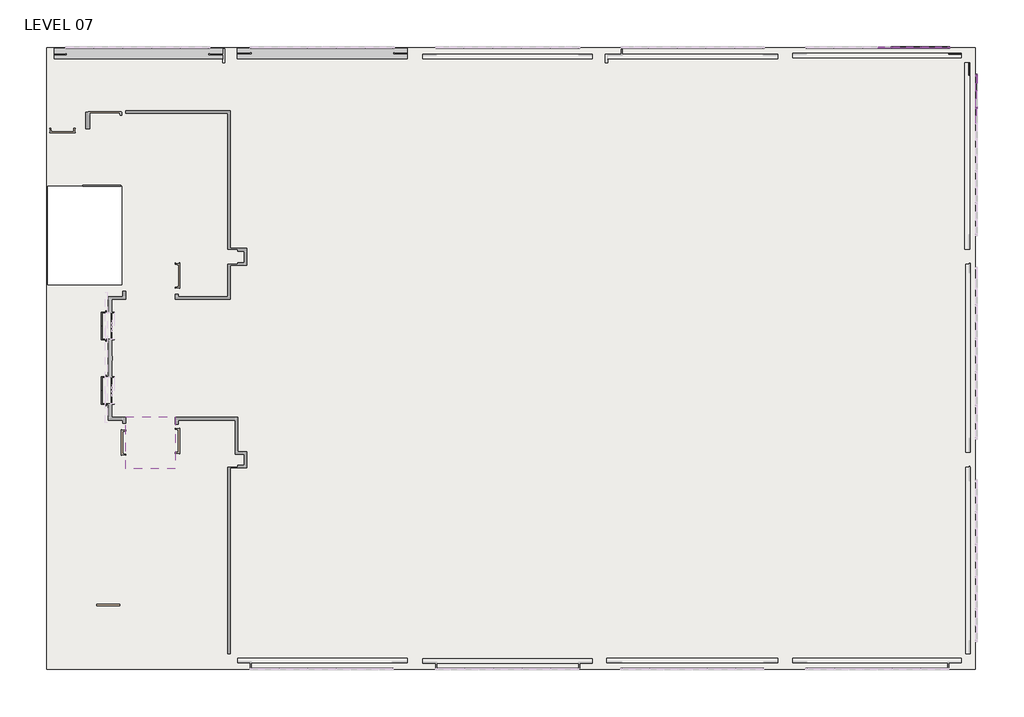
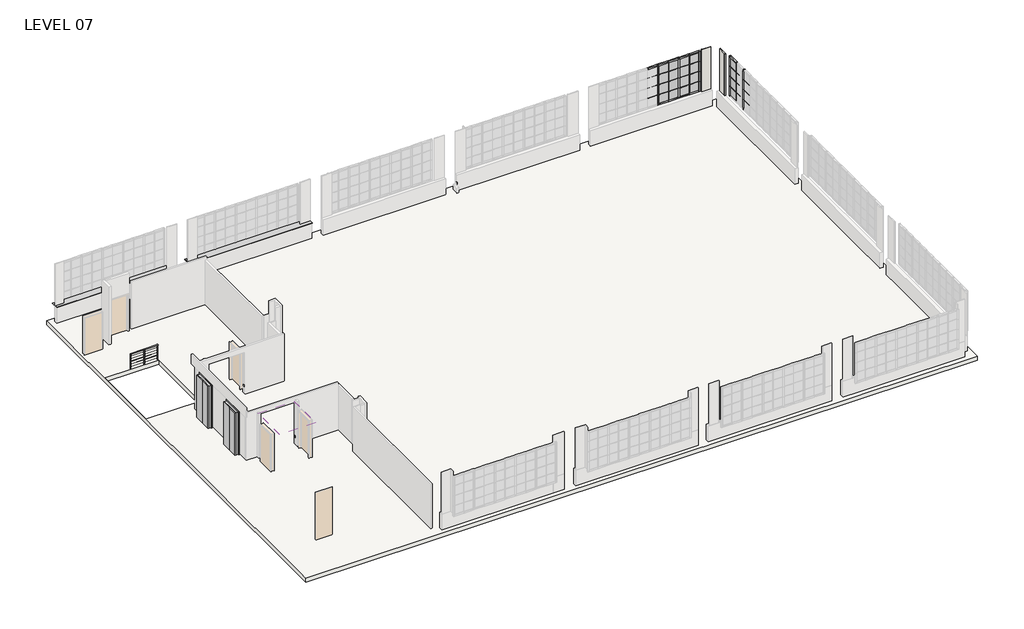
# One storey, part 15 of 15: 66 members, 20 plates, 6 proxies, 4 walls, 2 furniture elements, 1 covering, 1 railing, 1 slab.
"""IFC4 building model written with IfcOpenShell, lengths in millimetres."""

from ifc_helpers import new_model, si_unit, point, frame, frame_2d, origin, place, context, project, spatial, polyline, circle_curve, trimmed, segment, composite_curve, outline, extrude, faceted_brep, transform, mapped, element, save
from components import proxy_6c0da019, receptacle_wall_mounted_duplex_77620e8f, receptacle_wall_mounted_duplex_715ea828, receptacle_wall_mounted_duplex_e1195973, furniture_2e8edbcf, furniture_16195ded, member_78bb2ef1, member_d9fe2114, member_fd592df6, member_dcd82389, member_f013a865, member_1e778135, member_378e0c06, member_17eb62f4, member_ba51e770, member_6e5aab5d, member_bacafba3, member_a6d649dc, member_c8ab9ee9, system_panel_glazed_33ac10ee, system_panel_glazed_f7690e00, system_panel_glazed_84a10c8e, system_panel_glazed_44697018, system_panel_glazed_99b9b709, system_panel_glazed_bf1454fd

model = new_model("IFC4")

# Units and contexts
model_context = context("Model", 3, world=origin())
ifc_project = project(units=[si_unit("LENGTHUNIT", "METRE", prefix="MILLI")], contexts=[model_context])

# Site, building, storey
site = spatial("IfcSite", under=ifc_project)
building = spatial("IfcBuilding", under=site)
storey = spatial("IfcBuildingStorey", under=building, Name="LEVEL 07", Elevation=20802.6)

# Proxies
placement = place(None, origin())
proxy_shape = proxy_6c0da019(model_context)
element("IfcBuildingElementProxy", 1, Name="Elevator - Double Door - HW : 42\" x 96\"", ObjectType="Elevator - Double Door - HW : 42\" x 96\"", at=placement, inside=storey, context=model_context, shape_type="MappedRepresentation", body=[
    mapped(proxy_shape, transform((-35153.2082298, -14149.27762, 20802.6), x_axis=(0.0, -1.0, 0.0), y_axis=(1.0, 0.0, 0.0), z_axis=(0.0, 0.0, 1.0))),
])
element("IfcBuildingElementProxy", 2, Name="Elevator - Double Door - HW : 42\" x 96\"", ObjectType="Elevator - Double Door - HW : 42\" x 96\"", at=placement, inside=storey, context=model_context, shape_type="MappedRepresentation", body=[
    mapped(proxy_shape, transform((-35153.2082298, -11579.2714012, 20802.6), x_axis=(0.0, -1.0, 0.0), y_axis=(1.0, 0.0, 0.0), z_axis=(0.0, 0.0, 1.0))),
])
receptacle_wall_mounted_duplex_shape = receptacle_wall_mounted_duplex_77620e8f(model_context)
element("IfcBuildingElementProxy", 3, Name="Receptacle_Wall Mounted - Duplex : Convenience", ObjectType="Receptacle_Wall Mounted - Duplex : Convenience", at=placement, inside=storey, context=model_context, shape_type="MappedRepresentation", body=[
    mapped(receptacle_wall_mounted_duplex_shape, transform((-32256.0222362, -10317.9282337, 20802.6), x_axis=(0.0, -1.0, 0.0), y_axis=(1.0, 0.0, 0.0), z_axis=(0.0, 0.0, 1.0))),
])
receptacle_wall_mounted_duplex_2_shape = receptacle_wall_mounted_duplex_715ea828(model_context)
element("IfcBuildingElementProxy", 4, Name="Receptacle_Wall Mounted - Duplex : Convenience", ObjectType="Receptacle_Wall Mounted - Duplex : Convenience", at=placement, inside=storey, context=model_context, shape_type="MappedRepresentation", body=[
    mapped(receptacle_wall_mounted_duplex_2_shape, transform((-15155.4599596, -829.8940665, 20802.6), x_axis=(0.0, -1.0, 0.0), y_axis=(1.0, 0.0, 0.0), z_axis=(0.0, 0.0, 1.0))),
])
receptacle_wall_mounted_duplex_3_shape = receptacle_wall_mounted_duplex_e1195973(model_context)
element("IfcBuildingElementProxy", 5, Name="Receptacle_Wall Mounted - Duplex : Convenience", ObjectType="Receptacle_Wall Mounted - Duplex : Convenience", at=placement, inside=storey, context=model_context, shape_type="MappedRepresentation", body=[
    mapped(receptacle_wall_mounted_duplex_3_shape, transform((-30389.1099596, -829.8940665, 20802.6), x_axis=(0.0, -1.0, 0.0), y_axis=(1.0, 0.0, 0.0), z_axis=(0.0, 0.0, 1.0))),
])
element("IfcBuildingElementProxy", 6, Name="Receptacle_Wall Mounted - Duplex : Convenience", ObjectType="Receptacle_Wall Mounted - Duplex : Convenience", at=placement, inside=storey, context=model_context, shape_type="MappedRepresentation", body=[
    mapped(receptacle_wall_mounted_duplex_shape, transform((-32256.0222362, -15216.9559789, 20802.6), x_axis=(0.0, -1.0, 0.0), y_axis=(1.0, 0.0, 0.0), z_axis=(0.0, 0.0, 1.0))),
])

# Covering
element("IfcCovering", 7, ObjectType="1/2\" GWB  on 6\" Metal Stud", at=placement, inside=storey, context=model_context, shape_type="SweptSolid", body=[
    extrude(outline(polyline([(-34295.9623534, -17167.9919741), (-34295.9623534, -15095.228029), (-32309.9972362, -15095.228029), (-32309.9972362, -17167.9919741), (-34295.9623534, -17167.9919741)])), frame((0.0, 0.0, 23241.0), z_axis=(0.0, 0.0, 1.0), x_axis=(1.0, 0.0, 0.0)), (0.0, 0.0, 1.0), 152.4),
    extrude(outline(polyline([(-34295.9582282, -8360.5418823), (-32309.9972362, -8360.5418823), (-32309.9972362, -10417.9422401), (-34295.9582282, -10417.9422401), (-34295.9582282, -8360.5418823)])), frame((0.0, 0.0, 23241.0), z_axis=(0.0, 0.0, 1.0), x_axis=(1.0, 0.0, 0.0)), (0.0, 0.0, 1.0), 152.4),
])

# Furniture
furniture_shape = furniture_2e8edbcf(model_context)
element("IfcFurniture", 8, ObjectType="Countertop - Straight : 16\" DEPTH - WINDOW SILL", at=placement, inside=storey, context=model_context, shape_type="MappedRepresentation", body=[
    mapped(furniture_shape, transform((-35935.5226645, -431.8, 20872.45), x_axis=(1.0, 0.0, 0.0), y_axis=(0.0, 1.0, 0.0), z_axis=(0.0, 0.0, 1.0))),
])
furniture_2_shape = furniture_16195ded(model_context)
element("IfcFurniture", 9, ObjectType="Countertop - Straight : 16\" DEPTH - WINDOW SILL", at=placement, inside=storey, context=model_context, shape_type="MappedRepresentation", body=[
    mapped(furniture_2_shape, transform((-28648.7463306, -431.8, 20872.45), x_axis=(1.0, 0.0, 0.0), y_axis=(0.0, 1.0, 0.0), z_axis=(0.0, 0.0, 1.0))),
])

# Members
member_shape = member_78bb2ef1(model_context)
element("IfcMember", 10, ObjectType="Rectangular Mullion : 1\" x 1\" - Butt Joint", at=placement, inside=storey, context=model_context, shape_type="MappedRepresentation", body=[
    mapped(member_shape, transform((-445.6849596, -2133.1748817, 23342.6), x_axis=(0.0, 1.0, 0.0), y_axis=(1.0, 0.0, 0.0), z_axis=(0.0, 0.0, -1.0))),
])
element("IfcMember", 11, ObjectType="Rectangular Mullion : 1\" x 1\" - Butt Joint", at=placement, inside=storey, context=model_context, shape_type="MappedRepresentation", body=[
    mapped(member_shape, transform((-445.6849596, -2133.1748817, 22174.2), x_axis=(0.0, 1.0, 0.0), y_axis=(1.0, 0.0, 0.0), z_axis=(0.0, 0.0, -1.0))),
])
element("IfcMember", 12, ObjectType="Rectangular Mullion : 1\" x 1\" - Butt Joint", at=placement, inside=storey, context=model_context, shape_type="MappedRepresentation", body=[
    mapped(member_shape, transform((-445.6849596, -2133.1748817, 22758.4), x_axis=(0.0, 1.0, 0.0), y_axis=(1.0, 0.0, 0.0), z_axis=(0.0, 0.0, -1.0))),
])
element("IfcMember", 13, ObjectType="Rectangular Mullion : 1\" x 1\" - Butt Joint", at=placement, inside=storey, context=model_context, shape_type="MappedRepresentation", body=[
    mapped(member_shape, transform((-445.6849596, -2133.1748817, 21590.0), x_axis=(0.0, 1.0, 0.0), y_axis=(1.0, 0.0, 0.0), z_axis=(0.0, 0.0, -1.0))),
])
member_2_shape = member_d9fe2114(model_context)
element("IfcMember", 14, ObjectType="Rectangular Mullion : 1\" x 1\" - Butt Joint", at=placement, inside=storey, context=model_context, shape_type="MappedRepresentation", body=[
    mapped(member_2_shape, transform((-3828.2571519, -412.75, 23342.6), x_axis=(0.0, 0.0, 1.0), y_axis=(0.0, -1.0, 0.0), z_axis=(1.0, 0.0, 0.0))),
])
element("IfcMember", 15, ObjectType="Rectangular Mullion : 1\" x 1\" - Butt Joint", at=placement, inside=storey, context=model_context, shape_type="MappedRepresentation", body=[
    mapped(member_2_shape, transform((-2680.1771519, -412.75, 23342.6), x_axis=(0.0, 0.0, 1.0), y_axis=(0.0, -1.0, 0.0), z_axis=(1.0, 0.0, 0.0))),
])
element("IfcMember", 16, ObjectType="Rectangular Mullion : 1\" x 1\" - Butt Joint", at=placement, inside=storey, context=model_context, shape_type="MappedRepresentation", body=[
    mapped(member_2_shape, transform((-3228.8171519, -412.75, 23342.6), x_axis=(0.0, 0.0, 1.0), y_axis=(0.0, -1.0, 0.0), z_axis=(1.0, 0.0, 0.0))),
])
element("IfcMember", 17, ObjectType="Rectangular Mullion : 1\" x 1\" - Butt Joint", at=placement, inside=storey, context=model_context, shape_type="MappedRepresentation", body=[
    mapped(member_2_shape, transform((-2080.7371519, -412.75, 23342.6), x_axis=(0.0, 0.0, 1.0), y_axis=(0.0, -1.0, 0.0), z_axis=(1.0, 0.0, 0.0))),
])
element("IfcMember", 18, ObjectType="Rectangular Mullion : 1\" x 1\" - Butt Joint", at=placement, inside=storey, context=model_context, shape_type="MappedRepresentation", body=[
    mapped(member_2_shape, transform((-3828.2571519, -412.75, 22758.4), x_axis=(0.0, 0.0, 1.0), y_axis=(0.0, -1.0, 0.0), z_axis=(1.0, 0.0, 0.0))),
])
element("IfcMember", 19, ObjectType="Rectangular Mullion : 1\" x 1\" - Butt Joint", at=placement, inside=storey, context=model_context, shape_type="MappedRepresentation", body=[
    mapped(member_2_shape, transform((-2680.1771519, -412.75, 22758.4), x_axis=(0.0, 0.0, 1.0), y_axis=(0.0, -1.0, 0.0), z_axis=(1.0, 0.0, 0.0))),
])
element("IfcMember", 20, ObjectType="Rectangular Mullion : 1\" x 1\" - Butt Joint", at=placement, inside=storey, context=model_context, shape_type="MappedRepresentation", body=[
    mapped(member_2_shape, transform((-3228.8171519, -412.75, 22758.4), x_axis=(0.0, 0.0, 1.0), y_axis=(0.0, -1.0, 0.0), z_axis=(1.0, 0.0, 0.0))),
])
element("IfcMember", 21, ObjectType="Rectangular Mullion : 1\" x 1\" - Butt Joint", at=placement, inside=storey, context=model_context, shape_type="MappedRepresentation", body=[
    mapped(member_2_shape, transform((-2080.7371519, -412.75, 22758.4), x_axis=(0.0, 0.0, 1.0), y_axis=(0.0, -1.0, 0.0), z_axis=(1.0, 0.0, 0.0))),
])
element("IfcMember", 22, ObjectType="Rectangular Mullion : 1\" x 1\" - Butt Joint", at=placement, inside=storey, context=model_context, shape_type="MappedRepresentation", body=[
    mapped(member_2_shape, transform((-3828.2571519, -412.75, 22174.2), x_axis=(0.0, 0.0, 1.0), y_axis=(0.0, -1.0, 0.0), z_axis=(1.0, 0.0, 0.0))),
])
element("IfcMember", 23, ObjectType="Rectangular Mullion : 1\" x 1\" - Butt Joint", at=placement, inside=storey, context=model_context, shape_type="MappedRepresentation", body=[
    mapped(member_2_shape, transform((-2680.1771519, -412.75, 22174.2), x_axis=(0.0, 0.0, 1.0), y_axis=(0.0, -1.0, 0.0), z_axis=(1.0, 0.0, 0.0))),
])
element("IfcMember", 24, ObjectType="Rectangular Mullion : 1\" x 1\" - Butt Joint", at=placement, inside=storey, context=model_context, shape_type="MappedRepresentation", body=[
    mapped(member_2_shape, transform((-3228.8171519, -412.75, 22174.2), x_axis=(0.0, 0.0, 1.0), y_axis=(0.0, -1.0, 0.0), z_axis=(1.0, 0.0, 0.0))),
])
element("IfcMember", 25, ObjectType="Rectangular Mullion : 1\" x 1\" - Butt Joint", at=placement, inside=storey, context=model_context, shape_type="MappedRepresentation", body=[
    mapped(member_2_shape, transform((-2080.7371519, -412.75, 22174.2), x_axis=(0.0, 0.0, 1.0), y_axis=(0.0, -1.0, 0.0), z_axis=(1.0, 0.0, 0.0))),
])
member_3_shape = member_fd592df6(model_context)
element("IfcMember", 26, ObjectType="Rectangular Mullion : 1\" x 1\" - Butt Joint", at=placement, inside=storey, context=model_context, shape_type="MappedRepresentation", body=[
    mapped(member_3_shape, transform((-1570.1971519, -412.75, 23342.6), x_axis=(0.0, 0.0, 1.0), y_axis=(0.0, -1.0, 0.0), z_axis=(1.0, 0.0, 0.0))),
])
element("IfcMember", 27, ObjectType="Rectangular Mullion : 1\" x 1\" - Butt Joint", at=placement, inside=storey, context=model_context, shape_type="MappedRepresentation", body=[
    mapped(member_3_shape, transform((-1570.1971519, -412.75, 22758.4), x_axis=(0.0, 0.0, 1.0), y_axis=(0.0, -1.0, 0.0), z_axis=(1.0, 0.0, 0.0))),
])
element("IfcMember", 28, ObjectType="Rectangular Mullion : 1\" x 1\" - Butt Joint", at=placement, inside=storey, context=model_context, shape_type="MappedRepresentation", body=[
    mapped(member_3_shape, transform((-1570.1971519, -412.75, 22174.2), x_axis=(0.0, 0.0, 1.0), y_axis=(0.0, -1.0, 0.0), z_axis=(1.0, 0.0, 0.0))),
])
element("IfcMember", 29, ObjectType="Rectangular Mullion : 1\" x 1\" - Butt Joint", at=placement, inside=storey, context=model_context, shape_type="MappedRepresentation", body=[
    mapped(member_shape, transform((-2068.0371519, -412.75, 23342.6), x_axis=(1.0, 0.0, 0.0), y_axis=(0.0, -1.0, 0.0), z_axis=(0.0, 0.0, -1.0))),
])
element("IfcMember", 30, ObjectType="Rectangular Mullion : 1\" x 1\" - Butt Joint", at=placement, inside=storey, context=model_context, shape_type="MappedRepresentation", body=[
    mapped(member_shape, transform((-3216.1171519, -412.75, 23342.6), x_axis=(1.0, 0.0, 0.0), y_axis=(0.0, -1.0, 0.0), z_axis=(0.0, 0.0, -1.0))),
])
element("IfcMember", 31, ObjectType="Rectangular Mullion : 1\" x 1\" - Butt Joint", at=placement, inside=storey, context=model_context, shape_type="MappedRepresentation", body=[
    mapped(member_shape, transform((-2068.0371519, -412.75, 22174.2), x_axis=(1.0, 0.0, 0.0), y_axis=(0.0, -1.0, 0.0), z_axis=(0.0, 0.0, -1.0))),
])
element("IfcMember", 32, ObjectType="Rectangular Mullion : 1\" x 1\" - Butt Joint", at=placement, inside=storey, context=model_context, shape_type="MappedRepresentation", body=[
    mapped(member_shape, transform((-2068.0371519, -412.75, 22758.4), x_axis=(1.0, 0.0, 0.0), y_axis=(0.0, -1.0, 0.0), z_axis=(0.0, 0.0, -1.0))),
])
element("IfcMember", 33, ObjectType="Rectangular Mullion : 1\" x 1\" - Butt Joint", at=placement, inside=storey, context=model_context, shape_type="MappedRepresentation", body=[
    mapped(member_shape, transform((-3216.1171519, -412.75, 22174.2), x_axis=(1.0, 0.0, 0.0), y_axis=(0.0, -1.0, 0.0), z_axis=(0.0, 0.0, -1.0))),
])
element("IfcMember", 34, ObjectType="Rectangular Mullion : 1\" x 1\" - Butt Joint", at=placement, inside=storey, context=model_context, shape_type="MappedRepresentation", body=[
    mapped(member_shape, transform((-3216.1171519, -412.75, 22758.4), x_axis=(1.0, 0.0, 0.0), y_axis=(0.0, -1.0, 0.0), z_axis=(0.0, 0.0, -1.0))),
])
element("IfcMember", 35, ObjectType="Rectangular Mullion : 1\" x 1\" - Butt Joint", at=placement, inside=storey, context=model_context, shape_type="MappedRepresentation", body=[
    mapped(member_shape, transform((-2068.0371519, -412.75, 21590.0), x_axis=(1.0, 0.0, 0.0), y_axis=(0.0, -1.0, 0.0), z_axis=(0.0, 0.0, -1.0))),
])
element("IfcMember", 36, ObjectType="Rectangular Mullion : 1\" x 1\" - Butt Joint", at=placement, inside=storey, context=model_context, shape_type="MappedRepresentation", body=[
    mapped(member_shape, transform((-3216.1171519, -412.75, 21590.0), x_axis=(1.0, 0.0, 0.0), y_axis=(0.0, -1.0, 0.0), z_axis=(0.0, 0.0, -1.0))),
])
member_4_shape = member_dcd82389(model_context)
element("IfcMember", 37, ObjectType="Rectangular Mullion : 1\" x 1\" - Butt Joint", at=placement, inside=storey, context=model_context, shape_type="MappedRepresentation", body=[
    mapped(member_4_shape, transform((-445.6849596, -2828.0747634, 23342.6), x_axis=(0.0, 0.0, 1.0), y_axis=(1.0, 0.0, 0.0), z_axis=(0.0, 1.0, 0.0))),
])
element("IfcMember", 38, ObjectType="Rectangular Mullion : 1\" x 1\" - Butt Joint", at=placement, inside=storey, context=model_context, shape_type="MappedRepresentation", body=[
    mapped(member_4_shape, transform((-445.6849596, -2828.0747634, 22758.4), x_axis=(0.0, 0.0, 1.0), y_axis=(1.0, 0.0, 0.0), z_axis=(0.0, 1.0, 0.0))),
])
element("IfcMember", 39, ObjectType="Rectangular Mullion : 1\" x 1\" - Butt Joint", at=placement, inside=storey, context=model_context, shape_type="MappedRepresentation", body=[
    mapped(member_4_shape, transform((-445.6849596, -2828.0747634, 22174.2), x_axis=(0.0, 0.0, 1.0), y_axis=(1.0, 0.0, 0.0), z_axis=(0.0, 1.0, 0.0))),
])
member_5_shape = member_f013a865(model_context)
element("IfcMember", 40, ObjectType="Rectangular Mullion : 1\" x 1\" - Butt Joint", at=placement, inside=storey, context=model_context, shape_type="MappedRepresentation", body=[
    mapped(member_5_shape, transform((-445.6849596, -2145.8748817, 23342.6), x_axis=(0.0, 0.0, 1.0), y_axis=(1.0, 0.0, 0.0), z_axis=(0.0, 1.0, 0.0))),
])
element("IfcMember", 41, ObjectType="Rectangular Mullion : 1\" x 1\" - Butt Joint", at=placement, inside=storey, context=model_context, shape_type="MappedRepresentation", body=[
    mapped(member_5_shape, transform((-445.6849596, -2145.8748817, 22758.4), x_axis=(0.0, 0.0, 1.0), y_axis=(1.0, 0.0, 0.0), z_axis=(0.0, 1.0, 0.0))),
])
element("IfcMember", 42, ObjectType="Rectangular Mullion : 1\" x 1\" - Butt Joint", at=placement, inside=storey, context=model_context, shape_type="MappedRepresentation", body=[
    mapped(member_5_shape, transform((-445.6849596, -2145.8748817, 22174.2), x_axis=(0.0, 0.0, 1.0), y_axis=(1.0, 0.0, 0.0), z_axis=(0.0, 1.0, 0.0))),
])
member_6_shape = member_1e778135(model_context)
element("IfcMember", 43, ObjectType="Rectangular Mullion : 1\" x 1\" - Butt Joint", at=placement, inside=storey, context=model_context, shape_type="MappedRepresentation", body=[
    mapped(member_6_shape, transform((-445.6849596, -1541.9738171, 23342.6), x_axis=(0.0, 0.0, 1.0), y_axis=(1.0, 0.0, 0.0), z_axis=(0.0, 1.0, 0.0))),
])
element("IfcMember", 44, ObjectType="Rectangular Mullion : 1\" x 1\" - Butt Joint", at=placement, inside=storey, context=model_context, shape_type="MappedRepresentation", body=[
    mapped(member_6_shape, transform((-445.6849596, -1541.9738171, 22758.4), x_axis=(0.0, 0.0, 1.0), y_axis=(1.0, 0.0, 0.0), z_axis=(0.0, 1.0, 0.0))),
])
element("IfcMember", 45, ObjectType="Rectangular Mullion : 1\" x 1\" - Butt Joint", at=placement, inside=storey, context=model_context, shape_type="MappedRepresentation", body=[
    mapped(member_6_shape, transform((-445.6849596, -1541.9738171, 22174.2), x_axis=(0.0, 0.0, 1.0), y_axis=(1.0, 0.0, 0.0), z_axis=(0.0, 1.0, 0.0))),
])
member_7_shape = member_378e0c06(model_context)
element("IfcMember", 46, ObjectType="Rectangular Mullion : 3\" x 3\" Window Jamb", at=placement, inside=storey, context=model_context, shape_type="MappedRepresentation", body=[
    mapped(member_7_shape, transform((-445.6849596, -2789.9747634, 23342.6), x_axis=(0.0, 1.0, 0.0), y_axis=(1.0, 0.0, 0.0), z_axis=(0.0, 0.0, -1.0))),
])
member_8_shape = member_17eb62f4(model_context)
element("IfcMember", 47, ObjectType="Rectangular Mullion : 3\" x 3\" Window Jamb", at=placement, inside=storey, context=model_context, shape_type="MappedRepresentation", body=[
    mapped(member_8_shape, transform((-445.6849596, -1465.7738171, 23342.6), x_axis=(0.0, 1.0, 0.0), y_axis=(1.0, 0.0, 0.0), z_axis=(0.0, 0.0, -1.0))),
])
element("IfcMember", 48, ObjectType="Rectangular Mullion : 3\" x 3\" Window Jamb", at=placement, inside=storey, context=model_context, shape_type="MappedRepresentation", body=[
    mapped(member_7_shape, transform((-445.6849596, -2789.9747634, 22174.2), x_axis=(0.0, 1.0, 0.0), y_axis=(1.0, 0.0, 0.0), z_axis=(0.0, 0.0, -1.0))),
])
element("IfcMember", 49, ObjectType="Rectangular Mullion : 3\" x 3\" Window Jamb", at=placement, inside=storey, context=model_context, shape_type="MappedRepresentation", body=[
    mapped(member_7_shape, transform((-445.6849596, -2789.9747634, 22758.4), x_axis=(0.0, 1.0, 0.0), y_axis=(1.0, 0.0, 0.0), z_axis=(0.0, 0.0, -1.0))),
])
element("IfcMember", 50, ObjectType="Rectangular Mullion : 3\" x 3\" Window Jamb", at=placement, inside=storey, context=model_context, shape_type="MappedRepresentation", body=[
    mapped(member_8_shape, transform((-445.6849596, -1465.7738171, 22174.2), x_axis=(0.0, 1.0, 0.0), y_axis=(1.0, 0.0, 0.0), z_axis=(0.0, 0.0, -1.0))),
])
element("IfcMember", 51, ObjectType="Rectangular Mullion : 3\" x 3\" Window Jamb", at=placement, inside=storey, context=model_context, shape_type="MappedRepresentation", body=[
    mapped(member_8_shape, transform((-445.6849596, -1465.7738171, 22758.4), x_axis=(0.0, 1.0, 0.0), y_axis=(1.0, 0.0, 0.0), z_axis=(0.0, 0.0, -1.0))),
])
element("IfcMember", 52, ObjectType="Rectangular Mullion : 3\" x 3\" Window Jamb", at=placement, inside=storey, context=model_context, shape_type="MappedRepresentation", body=[
    mapped(member_7_shape, transform((-445.6849596, -2789.9747634, 21590.0), x_axis=(0.0, 1.0, 0.0), y_axis=(1.0, 0.0, 0.0), z_axis=(0.0, 0.0, -1.0))),
])
element("IfcMember", 53, ObjectType="Rectangular Mullion : 3\" x 3\" Window Jamb", at=placement, inside=storey, context=model_context, shape_type="MappedRepresentation", body=[
    mapped(member_8_shape, transform((-445.6849596, -1465.7738171, 21590.0), x_axis=(0.0, 1.0, 0.0), y_axis=(1.0, 0.0, 0.0), z_axis=(0.0, 0.0, -1.0))),
])
member_9_shape = member_ba51e770(model_context)
element("IfcMember", 54, ObjectType="Rectangular Mullion : 3\" x 3\" Window Jamb", at=placement, inside=storey, context=model_context, shape_type="MappedRepresentation", body=[
    mapped(member_9_shape, transform((-1570.1971519, -412.75, 23926.8), x_axis=(0.0, 0.0, 1.0), y_axis=(0.0, -1.0, 0.0), z_axis=(1.0, 0.0, 0.0))),
])
member_10_shape = member_6e5aab5d(model_context)
element("IfcMember", 55, ObjectType="Rectangular Mullion : 3\" x 3\" Window Jamb", at=placement, inside=storey, context=model_context, shape_type="MappedRepresentation", body=[
    mapped(member_10_shape, transform((-3228.8171519, -412.75, 23926.8), x_axis=(0.0, 0.0, 1.0), y_axis=(0.0, -1.0, 0.0), z_axis=(1.0, 0.0, 0.0))),
])
element("IfcMember", 56, ObjectType="Rectangular Mullion : 3\" x 3\" Window Jamb", at=placement, inside=storey, context=model_context, shape_type="MappedRepresentation", body=[
    mapped(member_10_shape, transform((-2080.7371519, -412.75, 23926.8), x_axis=(0.0, 0.0, 1.0), y_axis=(0.0, -1.0, 0.0), z_axis=(1.0, 0.0, 0.0))),
])
element("IfcMember", 57, ObjectType="Rectangular Mullion : 3\" x 3\" Window Jamb", at=placement, inside=storey, context=model_context, shape_type="MappedRepresentation", body=[
    mapped(member_10_shape, transform((-3828.2571519, -412.75, 23926.8), x_axis=(0.0, 0.0, 1.0), y_axis=(0.0, -1.0, 0.0), z_axis=(1.0, 0.0, 0.0))),
])
element("IfcMember", 58, ObjectType="Rectangular Mullion : 3\" x 3\" Window Jamb", at=placement, inside=storey, context=model_context, shape_type="MappedRepresentation", body=[
    mapped(member_10_shape, transform((-2680.1771519, -412.75, 23926.8), x_axis=(0.0, 0.0, 1.0), y_axis=(0.0, -1.0, 0.0), z_axis=(1.0, 0.0, 0.0))),
])
element("IfcMember", 59, ObjectType="Rectangular Mullion : 3\" x 3\" Window Jamb", at=placement, inside=storey, context=model_context, shape_type="MappedRepresentation", body=[
    mapped(member_10_shape, transform((-3203.4171519, -412.75, 21590.0), x_axis=(0.0, 0.0, -1.0), y_axis=(0.0, -1.0, 0.0), z_axis=(-1.0, 0.0, 0.0))),
])
element("IfcMember", 60, ObjectType="Rectangular Mullion : 3\" x 3\" Window Jamb", at=placement, inside=storey, context=model_context, shape_type="MappedRepresentation", body=[
    mapped(member_10_shape, transform((-3752.0571519, -412.75, 21590.0), x_axis=(0.0, 0.0, -1.0), y_axis=(0.0, -1.0, 0.0), z_axis=(-1.0, 0.0, 0.0))),
])
element("IfcMember", 61, ObjectType="Rectangular Mullion : 3\" x 3\" Window Jamb", at=placement, inside=storey, context=model_context, shape_type="MappedRepresentation", body=[
    mapped(member_10_shape, transform((-2603.9771519, -412.75, 21590.0), x_axis=(0.0, 0.0, -1.0), y_axis=(0.0, -1.0, 0.0), z_axis=(-1.0, 0.0, 0.0))),
])
element("IfcMember", 62, ObjectType="Rectangular Mullion : 3\" x 3\" Window Jamb", at=placement, inside=storey, context=model_context, shape_type="MappedRepresentation", body=[
    mapped(member_9_shape, transform((-2055.3371519, -412.75, 21590.0), x_axis=(0.0, 0.0, -1.0), y_axis=(0.0, -1.0, 0.0), z_axis=(-1.0, 0.0, 0.0))),
])
member_11_shape = member_bacafba3(model_context)
element("IfcMember", 63, ObjectType="Rectangular Mullion : 3\" x 3\" Window Jamb", at=placement, inside=storey, context=model_context, shape_type="MappedRepresentation", body=[
    mapped(member_11_shape, transform((-2642.0771519, -412.75, 23342.6), x_axis=(1.0, 0.0, 0.0), y_axis=(0.0, -1.0, 0.0), z_axis=(0.0, 0.0, -1.0))),
])
element("IfcMember", 64, ObjectType="Rectangular Mullion : 3\" x 3\" Window Jamb", at=placement, inside=storey, context=model_context, shape_type="MappedRepresentation", body=[
    mapped(member_11_shape, transform((-3790.1571519, -412.75, 23342.6), x_axis=(1.0, 0.0, 0.0), y_axis=(0.0, -1.0, 0.0), z_axis=(0.0, 0.0, -1.0))),
])
element("IfcMember", 65, ObjectType="Rectangular Mullion : 3\" x 3\" Window Jamb", at=placement, inside=storey, context=model_context, shape_type="MappedRepresentation", body=[
    mapped(member_11_shape, transform((-2642.0771519, -412.75, 22174.2), x_axis=(1.0, 0.0, 0.0), y_axis=(0.0, -1.0, 0.0), z_axis=(0.0, 0.0, -1.0))),
])
element("IfcMember", 66, ObjectType="Rectangular Mullion : 3\" x 3\" Window Jamb", at=placement, inside=storey, context=model_context, shape_type="MappedRepresentation", body=[
    mapped(member_11_shape, transform((-2642.0771519, -412.75, 22758.4), x_axis=(1.0, 0.0, 0.0), y_axis=(0.0, -1.0, 0.0), z_axis=(0.0, 0.0, -1.0))),
])
element("IfcMember", 67, ObjectType="Rectangular Mullion : 3\" x 3\" Window Jamb", at=placement, inside=storey, context=model_context, shape_type="MappedRepresentation", body=[
    mapped(member_11_shape, transform((-3790.1571519, -412.75, 22174.2), x_axis=(1.0, 0.0, 0.0), y_axis=(0.0, -1.0, 0.0), z_axis=(0.0, 0.0, -1.0))),
])
element("IfcMember", 68, ObjectType="Rectangular Mullion : 3\" x 3\" Window Jamb", at=placement, inside=storey, context=model_context, shape_type="MappedRepresentation", body=[
    mapped(member_11_shape, transform((-3790.1571519, -412.75, 22758.4), x_axis=(1.0, 0.0, 0.0), y_axis=(0.0, -1.0, 0.0), z_axis=(0.0, 0.0, -1.0))),
])
element("IfcMember", 69, ObjectType="Rectangular Mullion : 3\" x 3\" Window Jamb", at=placement, inside=storey, context=model_context, shape_type="MappedRepresentation", body=[
    mapped(member_11_shape, transform((-2642.0771519, -412.75, 21590.0), x_axis=(1.0, 0.0, 0.0), y_axis=(0.0, -1.0, 0.0), z_axis=(0.0, 0.0, -1.0))),
])
element("IfcMember", 70, ObjectType="Rectangular Mullion : 3\" x 3\" Window Jamb", at=placement, inside=storey, context=model_context, shape_type="MappedRepresentation", body=[
    mapped(member_11_shape, transform((-3790.1571519, -412.75, 21590.0), x_axis=(1.0, 0.0, 0.0), y_axis=(0.0, -1.0, 0.0), z_axis=(0.0, 0.0, -1.0))),
])
member_12_shape = member_a6d649dc(model_context)
element("IfcMember", 71, ObjectType="Rectangular Mullion : 3\" x 3\" Window Jamb", at=placement, inside=storey, context=model_context, shape_type="MappedRepresentation", body=[
    mapped(member_12_shape, transform((-1493.9971519, -412.75, 23342.6), x_axis=(1.0, 0.0, 0.0), y_axis=(0.0, -1.0, 0.0), z_axis=(0.0, 0.0, -1.0))),
])
element("IfcMember", 72, ObjectType="Rectangular Mullion : 3\" x 3\" Window Jamb", at=placement, inside=storey, context=model_context, shape_type="MappedRepresentation", body=[
    mapped(member_12_shape, transform((-1493.9971519, -412.75, 22174.2), x_axis=(1.0, 0.0, 0.0), y_axis=(0.0, -1.0, 0.0), z_axis=(0.0, 0.0, -1.0))),
])
element("IfcMember", 73, ObjectType="Rectangular Mullion : 3\" x 3\" Window Jamb", at=placement, inside=storey, context=model_context, shape_type="MappedRepresentation", body=[
    mapped(member_12_shape, transform((-1493.9971519, -412.75, 22758.4), x_axis=(1.0, 0.0, 0.0), y_axis=(0.0, -1.0, 0.0), z_axis=(0.0, 0.0, -1.0))),
])
element("IfcMember", 74, ObjectType="Rectangular Mullion : 3\" x 3\" Window Jamb", at=placement, inside=storey, context=model_context, shape_type="MappedRepresentation", body=[
    mapped(member_12_shape, transform((-1493.9971519, -412.75, 21590.0), x_axis=(1.0, 0.0, 0.0), y_axis=(0.0, -1.0, 0.0), z_axis=(0.0, 0.0, -1.0))),
])
member_13_shape = member_c8ab9ee9(model_context)
element("IfcMember", 75, ObjectType="Rectangular Mullion : 3\" x 3\" Window Jamb", at=placement, inside=storey, context=model_context, shape_type="MappedRepresentation", body=[
    mapped(member_13_shape, transform((-445.6849596, -1541.9738171, 23926.8), x_axis=(0.0, 0.0, 1.0), y_axis=(1.0, 0.0, 0.0), z_axis=(0.0, 1.0, 0.0))),
])

# Plates
system_panel_glazed_shape = system_panel_glazed_33ac10ee(model_context)
element("IfcPlate", 76, ObjectType="System Panel : Glazed", at=placement, inside=storey, context=model_context, shape_type="MappedRepresentation", body=[
    mapped(system_panel_glazed_shape, transform((-445.6849596, -1831.2243494, 21666.2), x_axis=(0.0, 1.0, 0.0), y_axis=(-1.0, 0.0, 0.0), z_axis=(0.0, 0.0, 1.0))),
])
element("IfcPlate", 77, ObjectType="System Panel : Glazed", at=placement, inside=storey, context=model_context, shape_type="MappedRepresentation", body=[
    mapped(system_panel_glazed_shape, transform((-445.6849596, -1831.2243494, 23355.3), x_axis=(0.0, 1.0, 0.0), y_axis=(-1.0, 0.0, 0.0), z_axis=(0.0, 0.0, 1.0))),
])
system_panel_glazed_2_shape = system_panel_glazed_f7690e00(model_context)
element("IfcPlate", 78, ObjectType="System Panel : Glazed", at=placement, inside=storey, context=model_context, shape_type="MappedRepresentation", body=[
    mapped(system_panel_glazed_2_shape, transform((-445.6849596, -1831.2243494, 22186.9), x_axis=(0.0, 1.0, 0.0), y_axis=(-1.0, 0.0, 0.0), z_axis=(0.0, 0.0, 1.0))),
])
element("IfcPlate", 79, ObjectType="System Panel : Glazed", at=placement, inside=storey, context=model_context, shape_type="MappedRepresentation", body=[
    mapped(system_panel_glazed_2_shape, transform((-445.6849596, -1831.2243494, 22771.1), x_axis=(0.0, 1.0, 0.0), y_axis=(-1.0, 0.0, 0.0), z_axis=(0.0, 0.0, 1.0))),
])
system_panel_glazed_3_shape = system_panel_glazed_84a10c8e(model_context)
element("IfcPlate", 80, ObjectType="System Panel : Glazed", at=placement, inside=storey, context=model_context, shape_type="MappedRepresentation", body=[
    mapped(system_panel_glazed_3_shape, transform((-1812.7671519, -412.75, 21666.2), x_axis=(1.0, 0.0, 0.0), y_axis=(0.0, 1.0, 0.0), z_axis=(0.0, 0.0, 1.0))),
])
element("IfcPlate", 81, ObjectType="System Panel : Glazed", at=placement, inside=storey, context=model_context, shape_type="MappedRepresentation", body=[
    mapped(system_panel_glazed_3_shape, transform((-1812.7671519, -412.75, 23355.3), x_axis=(1.0, 0.0, 0.0), y_axis=(0.0, 1.0, 0.0), z_axis=(0.0, 0.0, 1.0))),
])
system_panel_glazed_4_shape = system_panel_glazed_44697018(model_context)
element("IfcPlate", 82, ObjectType="System Panel : Glazed", at=placement, inside=storey, context=model_context, shape_type="MappedRepresentation", body=[
    mapped(system_panel_glazed_4_shape, transform((-2342.3571519, -412.75, 21666.2), x_axis=(1.0, 0.0, 0.0), y_axis=(0.0, 1.0, 0.0), z_axis=(0.0, 0.0, 1.0))),
])
element("IfcPlate", 83, ObjectType="System Panel : Glazed", at=placement, inside=storey, context=model_context, shape_type="MappedRepresentation", body=[
    mapped(system_panel_glazed_4_shape, transform((-3490.4371519, -412.75, 21666.2), x_axis=(1.0, 0.0, 0.0), y_axis=(0.0, 1.0, 0.0), z_axis=(0.0, 0.0, 1.0))),
])
element("IfcPlate", 84, ObjectType="System Panel : Glazed", at=placement, inside=storey, context=model_context, shape_type="MappedRepresentation", body=[
    mapped(system_panel_glazed_4_shape, transform((-3490.4371519, -412.75, 23355.3), x_axis=(1.0, 0.0, 0.0), y_axis=(0.0, 1.0, 0.0), z_axis=(0.0, 0.0, 1.0))),
])
element("IfcPlate", 85, ObjectType="System Panel : Glazed", at=placement, inside=storey, context=model_context, shape_type="MappedRepresentation", body=[
    mapped(system_panel_glazed_4_shape, transform((-2342.3571519, -412.75, 23355.3), x_axis=(1.0, 0.0, 0.0), y_axis=(0.0, 1.0, 0.0), z_axis=(0.0, 0.0, 1.0))),
])
element("IfcPlate", 86, ObjectType="System Panel : Glazed", at=placement, inside=storey, context=model_context, shape_type="MappedRepresentation", body=[
    mapped(system_panel_glazed_4_shape, transform((-2941.7971519, -412.75, 21666.2), x_axis=(1.0, 0.0, 0.0), y_axis=(0.0, 1.0, 0.0), z_axis=(0.0, 0.0, 1.0))),
])
element("IfcPlate", 87, ObjectType="System Panel : Glazed", at=placement, inside=storey, context=model_context, shape_type="MappedRepresentation", body=[
    mapped(system_panel_glazed_4_shape, transform((-2941.7971519, -412.75, 23355.3), x_axis=(1.0, 0.0, 0.0), y_axis=(0.0, 1.0, 0.0), z_axis=(0.0, 0.0, 1.0))),
])
system_panel_glazed_5_shape = system_panel_glazed_99b9b709(model_context)
element("IfcPlate", 88, ObjectType="System Panel : Glazed", at=placement, inside=storey, context=model_context, shape_type="MappedRepresentation", body=[
    mapped(system_panel_glazed_5_shape, transform((-1812.7671519, -412.75, 22186.9), x_axis=(1.0, 0.0, 0.0), y_axis=(0.0, 1.0, 0.0), z_axis=(0.0, 0.0, 1.0))),
])
element("IfcPlate", 89, ObjectType="System Panel : Glazed", at=placement, inside=storey, context=model_context, shape_type="MappedRepresentation", body=[
    mapped(system_panel_glazed_5_shape, transform((-1812.7671519, -412.75, 22771.1), x_axis=(1.0, 0.0, 0.0), y_axis=(0.0, 1.0, 0.0), z_axis=(0.0, 0.0, 1.0))),
])
system_panel_glazed_6_shape = system_panel_glazed_bf1454fd(model_context)
element("IfcPlate", 90, ObjectType="System Panel : Glazed", at=placement, inside=storey, context=model_context, shape_type="MappedRepresentation", body=[
    mapped(system_panel_glazed_6_shape, transform((-3490.4371519, -412.75, 22771.1), x_axis=(1.0, 0.0, 0.0), y_axis=(0.0, 1.0, 0.0), z_axis=(0.0, 0.0, 1.0))),
])
element("IfcPlate", 91, ObjectType="System Panel : Glazed", at=placement, inside=storey, context=model_context, shape_type="MappedRepresentation", body=[
    mapped(system_panel_glazed_6_shape, transform((-2342.3571519, -412.75, 22771.1), x_axis=(1.0, 0.0, 0.0), y_axis=(0.0, 1.0, 0.0), z_axis=(0.0, 0.0, 1.0))),
])
element("IfcPlate", 92, ObjectType="System Panel : Glazed", at=placement, inside=storey, context=model_context, shape_type="MappedRepresentation", body=[
    mapped(system_panel_glazed_6_shape, transform((-3490.4371519, -412.75, 22186.9), x_axis=(1.0, 0.0, 0.0), y_axis=(0.0, 1.0, 0.0), z_axis=(0.0, 0.0, 1.0))),
])
element("IfcPlate", 93, ObjectType="System Panel : Glazed", at=placement, inside=storey, context=model_context, shape_type="MappedRepresentation", body=[
    mapped(system_panel_glazed_6_shape, transform((-2342.3571519, -412.75, 22186.9), x_axis=(1.0, 0.0, 0.0), y_axis=(0.0, 1.0, 0.0), z_axis=(0.0, 0.0, 1.0))),
])
element("IfcPlate", 94, ObjectType="System Panel : Glazed", at=placement, inside=storey, context=model_context, shape_type="MappedRepresentation", body=[
    mapped(system_panel_glazed_6_shape, transform((-2941.7971519, -412.75, 22186.9), x_axis=(1.0, 0.0, 0.0), y_axis=(0.0, 1.0, 0.0), z_axis=(0.0, 0.0, 1.0))),
])
element("IfcPlate", 95, ObjectType="System Panel : Glazed", at=placement, inside=storey, context=model_context, shape_type="MappedRepresentation", body=[
    mapped(system_panel_glazed_6_shape, transform((-2941.7971519, -412.75, 22771.1), x_axis=(1.0, 0.0, 0.0), y_axis=(0.0, 1.0, 0.0), z_axis=(0.0, 0.0, 1.0))),
])

# Railing
element("IfcRailing", 96, ObjectType="Handrail - Rod & Cable", at=placement, inside=storey, context=model_context, shape_type="SweptSolid", body=[
    extrude(outline(composite_curve([segment(trimmed(circle_curve(frame_2d((-5898.7713965, 21697.95)), 19.05), [point((-5917.8213965, 21697.95))], [point((-5879.7213965, 21697.95))], False, "CARTESIAN"), True, "CONTINUOUS"), segment(trimmed(circle_curve(frame_2d((-5898.7713965, 21697.95)), 19.05), [point((-5879.7213965, 21697.95))], [point((-5917.8213965, 21697.95))], False, "CARTESIAN"), True, "CONTINUOUS")], self_intersect=False)), frame((-35997.5750429, 0.0, 0.0), z_axis=(1.0, 0.0, 0.0), x_axis=(0.0, 1.0, 0.0)), (0.0, 0.0, 1.0), 1515.9729519),
    extrude(outline(composite_curve([segment(trimmed(circle_curve(frame_2d((-5898.7713965, 21564.6)), 3.175), [point((-5895.5963965, 21564.6))], [point((-5901.9463965, 21564.6))], False, "CARTESIAN"), True, "CONTINUOUS"), segment(trimmed(circle_curve(frame_2d((-5898.7713965, 21564.6)), 3.175), [point((-5901.9463965, 21564.6))], [point((-5895.5963965, 21564.6))], False, "CARTESIAN"), True, "CONTINUOUS")], self_intersect=False)), frame((-35997.5750429, 0.0, 0.0), z_axis=(1.0, 0.0, 0.0), x_axis=(0.0, 1.0, 0.0)), (0.0, 0.0, 1.0), 1515.9729519),
    extrude(outline(composite_curve([segment(trimmed(circle_curve(frame_2d((-5898.7713965, 21412.2)), 3.175), [point((-5895.5963965, 21412.2))], [point((-5901.9463965, 21412.2))], False, "CARTESIAN"), True, "CONTINUOUS"), segment(trimmed(circle_curve(frame_2d((-5898.7713965, 21412.2)), 3.175), [point((-5901.9463965, 21412.2))], [point((-5895.5963965, 21412.2))], False, "CARTESIAN"), True, "CONTINUOUS")], self_intersect=False)), frame((-35997.5750429, 0.0, 0.0), z_axis=(1.0, 0.0, 0.0), x_axis=(0.0, 1.0, 0.0)), (0.0, 0.0, 1.0), 1515.9729519),
    extrude(outline(composite_curve([segment(trimmed(circle_curve(frame_2d((-5898.7713965, 21259.8)), 3.175), [point((-5895.5963965, 21259.8))], [point((-5901.9463965, 21259.8))], False, "CARTESIAN"), True, "CONTINUOUS"), segment(trimmed(circle_curve(frame_2d((-5898.7713965, 21259.8)), 3.175), [point((-5901.9463965, 21259.8))], [point((-5895.5963965, 21259.8))], False, "CARTESIAN"), True, "CONTINUOUS")], self_intersect=False)), frame((-35997.5750429, 0.0, 0.0), z_axis=(1.0, 0.0, 0.0), x_axis=(0.0, 1.0, 0.0)), (0.0, 0.0, 1.0), 1515.9729519),
    extrude(outline(composite_curve([segment(trimmed(circle_curve(frame_2d((-5898.7713965, 21107.4)), 3.175), [point((-5895.5963965, 21107.4))], [point((-5901.9463965, 21107.4))], False, "CARTESIAN"), True, "CONTINUOUS"), segment(trimmed(circle_curve(frame_2d((-5898.7713965, 21107.4)), 3.175), [point((-5901.9463965, 21107.4))], [point((-5895.5963965, 21107.4))], False, "CARTESIAN"), True, "CONTINUOUS")], self_intersect=False)), frame((-35997.5750429, 0.0, 0.0), z_axis=(1.0, 0.0, 0.0), x_axis=(0.0, 1.0, 0.0)), (0.0, 0.0, 1.0), 1515.9729519),
    extrude(outline(composite_curve([segment(trimmed(circle_curve(frame_2d((-5898.7713965, 20955.0)), 3.175), [point((-5895.5963965, 20955.0))], [point((-5901.9463965, 20955.0))], False, "CARTESIAN"), True, "CONTINUOUS"), segment(trimmed(circle_curve(frame_2d((-5898.7713965, 20955.0)), 3.175), [point((-5901.9463965, 20955.0))], [point((-5895.5963965, 20955.0))], False, "CARTESIAN"), True, "CONTINUOUS")], self_intersect=False)), frame((-35997.5750429, 0.0, 0.0), z_axis=(1.0, 0.0, 0.0), x_axis=(0.0, 1.0, 0.0)), (0.0, 0.0, 1.0), 1515.9729519),
    extrude(outline(polyline([(-35245.1000429, -5889.2463965), (-35226.0500429, -5889.2463965), (-35226.0500429, -5908.2963965), (-35245.1000429, -5908.2963965), (-35245.1000429, -5889.2463965)])), frame((0.0, 0.0, 20802.6), z_axis=(0.0, 0.0, 1.0), x_axis=(1.0, 0.0, 0.0)), (0.0, 0.0, 1.0), 876.3),
    extrude(outline(polyline([(-34503.827091, -5889.2463965), (-34484.777091, -5889.2463965), (-34484.777091, -5908.2963965), (-34503.827091, -5908.2963965), (-34503.827091, -5889.2463965)])), frame((0.0, 0.0, 20802.6), z_axis=(0.0, 0.0, 1.0), x_axis=(1.0, 0.0, 0.0)), (0.0, 0.0, 1.0), 876.3),
    extrude(outline(polyline([(-35994.4000429, -5889.2463965), (-35975.3500429, -5889.2463965), (-35975.3500429, -5908.2963965), (-35994.4000429, -5908.2963965), (-35994.4000429, -5889.2463965)])), frame((0.0, 0.0, 20802.6), z_axis=(0.0, 0.0, 1.0), x_axis=(1.0, 0.0, 0.0)), (0.0, 0.0, 1.0), 876.3),
])

# Slab
element("IfcSlab", 97, ObjectType="Architectural Slab 9\"", at=placement, inside=storey, context=model_context, shape_type="Brep", body=[
    faceted_brep([(-482.3709852, -403.225, 20574.0), (-482.3709852, -25135.9101345, 20574.0), (-37440.7849596, -25135.9101345, 20574.0), (-37440.7849596, -24274.408955, 20574.0), (-37440.7849596, -450.85, 20574.0), (-37440.7849596, -403.225, 20574.0), (-34448.3582282, -5926.2249162, 20574.0), (-37391.5832298, -5926.2249162, 20574.0), (-37391.5832298, -9846.4419757, 20574.0), (-34448.3582282, -9846.4419757, 20574.0), (-482.3709852, -25135.9101345, 20802.6), (-482.3709852, -403.225, 20802.6), (-37440.7849596, -403.225, 20802.6), (-37440.7849596, -450.85, 20802.6), (-37440.7849596, -24274.408955, 20802.6), (-37440.7849596, -25135.9101345, 20802.6), (-37391.5832298, -5926.2249162, 20802.6), (-34448.3582282, -5926.2249162, 20802.6), (-34448.3582282, -9846.4419757, 20802.6), (-37391.5832298, -9846.4419757, 20802.6)], [[[0, 1, 2, 3, 4, 5], [6, 7, 8, 9]], [[10, 11, 12, 13, 14, 15], [16, 17, 18, 19]], [[1, 0, 11, 10]], [[2, 1, 10, 15]], [[5, 4, 3, 2, 15, 14, 13, 12]], [[0, 5, 12, 11]], [[6, 17, 16, 7]], [[7, 16, 19, 8]], [[8, 19, 18, 9]], [[17, 6, 9, 18]]]),
])

# Walls
element("IfcWall", 98, ObjectType="Partition F0_", at=placement, inside=storey, context=model_context, shape_type="SweptSolid", body=[
    extrude(outline(polyline([(-713.9724596, -1012.825), (-713.9724596, -1475.2988171), (-748.8974596, -1475.2988171), (-748.8974596, -1012.825), (-713.9724596, -1012.825)])), frame((0.0, 0.0, 21717.0), z_axis=(0.0, 0.0, 1.0), x_axis=(1.0, 0.0, 0.0)), (0.0, 0.0, 1.0), 2438.4),
])
element("IfcWall", 99, ObjectType="Partition F0_", at=placement, inside=storey, context=model_context, shape_type="Brep", body=[
    faceted_brep([(-1036.2349596, -639.7625, 21717.0), (-1493.9971519, -639.7625, 21717.0), (-1528.9221519, -639.7625, 21717.0), (-1528.9221519, -639.7625, 24155.4), (-1493.9971519, -639.7625, 24155.4), (-1036.2349596, -639.7625, 24155.4), (-1036.2349596, -674.6875, 21717.0), (-1036.2349596, -674.6875, 24155.4), (-1528.9221519, -674.6875, 24155.4), (-1528.9221519, -674.6875, 21717.0)], [[[0, 1, 2, 3, 4, 5]], [[6, 7, 8, 9]], [[2, 1, 0, 6, 9]], [[5, 4, 3, 8, 7]], [[0, 5, 7, 6]], [[3, 2, 9, 8]]]),
])
element("IfcWall", 100, ObjectType="Partition F0_", at=placement, inside=storey, context=model_context, shape_type="SweptSolid", body=[
    extrude(outline(polyline([(-1493.9971519, -631.825), (-1493.9971519, -639.7625), (-1528.9221519, -639.7625), (-1528.9221519, -631.825), (-1493.9971519, -631.825)])), frame((0.0, 0.0, 21717.0), z_axis=(0.0, 0.0, 1.0), x_axis=(1.0, 0.0, 0.0)), (0.0, 0.0, 1.0), 2438.4),
])
element("IfcWall", 101, ObjectType="Partition F0_", at=placement, inside=storey, context=model_context, shape_type="Brep", body=[
    faceted_brep([(-709.2099596, -1475.2988171, 21717.0), (-713.9724596, -1475.2988171, 21717.0), (-748.8974596, -1475.2988171, 21717.0), (-748.8974596, -1475.2988171, 24155.4), (-713.9724596, -1475.2988171, 24155.4), (-709.2099596, -1475.2988171, 24155.4), (-709.2099596, -1510.2238171, 21717.0), (-709.2099596, -1510.2238171, 24155.4), (-748.8974596, -1510.2238171, 24155.4), (-748.8974596, -1510.2238171, 21717.0)], [[[0, 1, 2, 3, 4, 5]], [[6, 7, 8, 9]], [[2, 1, 0, 6, 9]], [[5, 4, 3, 8, 7]], [[3, 2, 9, 8]], [[0, 5, 7, 6]]]),
])

save(model, "model.ifc")
